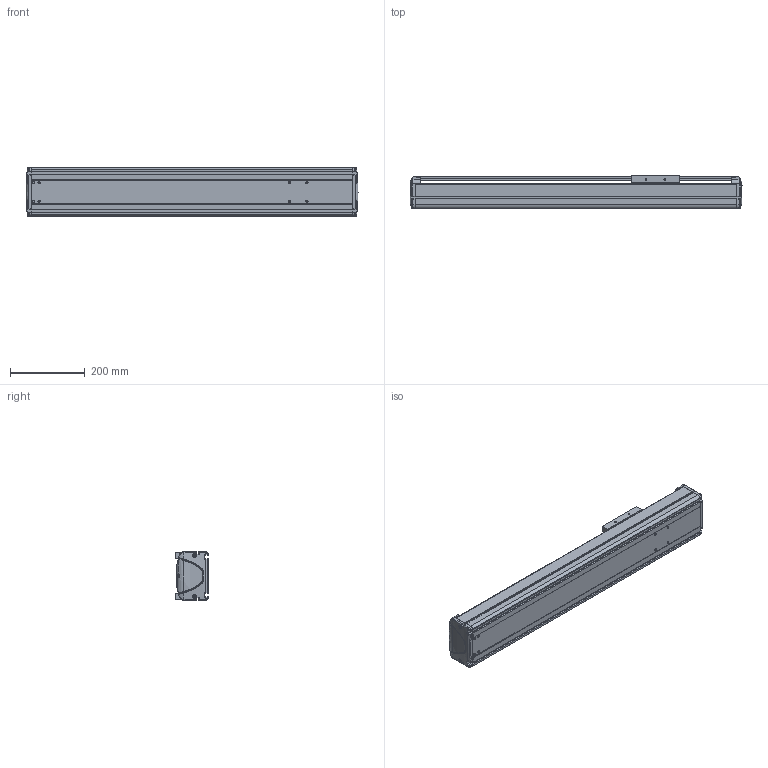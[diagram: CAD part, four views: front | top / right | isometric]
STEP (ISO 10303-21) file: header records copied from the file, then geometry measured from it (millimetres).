
FILE_DESCRIPTION((''),'2;1');
FILE_NAME('BE30E-ST-M_N-55_IGS_PRT','2017-06-17T',(' '),(''),'PRO/ENGINEER BY PARAMETRIC TECHNOLOGY CORPORATION, 2015030','PRO/ENGINEER BY PARAMETRIC TECHNOLOGY CORPORATION, 2015030','');
FILE_SCHEMA(('CONFIG_CONTROL_DESIGN'));
Length unit declared in the file: millimetre
Products named in the file (1): BE30E-ST-M_N-55_IGS_PRT
Bounding box: 890 x 89.8 x 130 mm (x, y, z)
Volume: 2738246.5 mm3; surface area: 1093354.7 mm2
Topology: 3 solids, 78 shells, 1312 faces, 3507 edges, 2292 vertices
Faces by surface type: plane 580, cylinder 575, bspline 55, torus 46, cone 32, sphere 24
Entity records: 43931 total; most frequent: CARTESIAN_POINT 11048, DIRECTION 6782, ORIENTED_EDGE 6678, EDGE_CURVE 3487, AXIS2_PLACEMENT_3D 2440, VERTEX_POINT 2292, VECTOR 1902, LINE 1902
